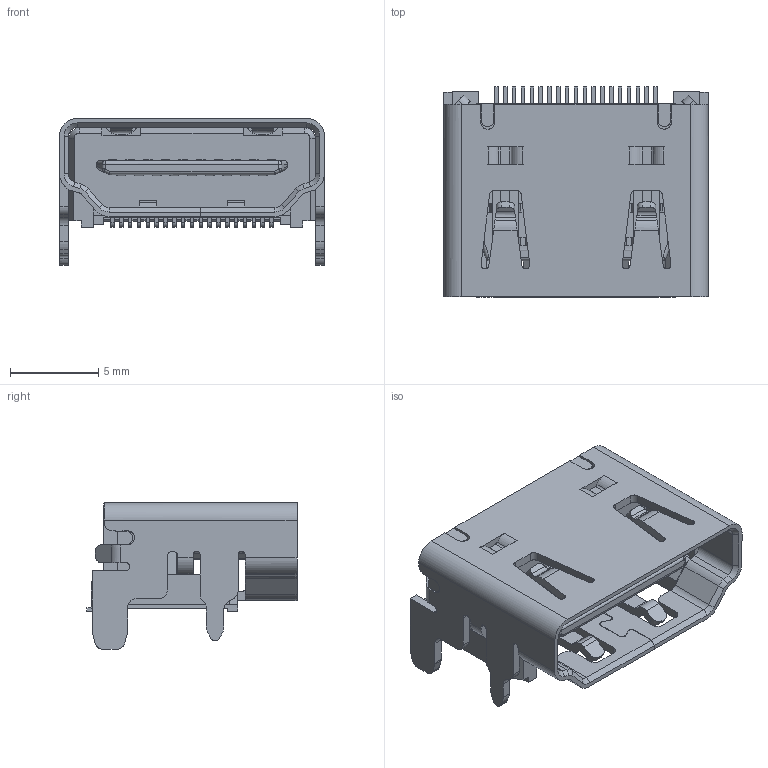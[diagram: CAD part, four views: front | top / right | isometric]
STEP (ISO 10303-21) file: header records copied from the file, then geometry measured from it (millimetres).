
FILE_DESCRIPTION (( 'STEP AP214' ), '1' );
FILE_NAME ('HDMI-SMD_HDMI-001S.step', '2025-02-13T08:00:12', ( '' ), ( '' ), 'SwSTEP 2.0', 'SolidWorks 2021', '' );
FILE_SCHEMA (( 'AUTOMOTIVE_DESIGN' ));
Length unit declared in the file: millimetre
Products named in the file (1): HDMI-SMD_HDMI-001S
Bounding box: 15 x 11.9 x 8.32 mm (x, y, z)
Volume: 463 mm3; surface area: 1393 mm2
Topology: 1 solids, 1 shells, 1402 faces, 4092 edges, 2701 vertices
Faces by surface type: bspline 1262, plane 136, cylinder 4
Entity records: 65865 total; most frequent: CARTESIAN_POINT 24642, ORIENTED_EDGE 8164, EDGE_CURVE 4082, B_SPLINE_CURVE_WITH_KNOTS 3257, VERTEX_POINT 2701, EDGE_LOOP 1485, UNCERTAINTY_MEASURE_WITH_UNIT 1405, SURFACE_STYLE_FILL_AREA 1404
